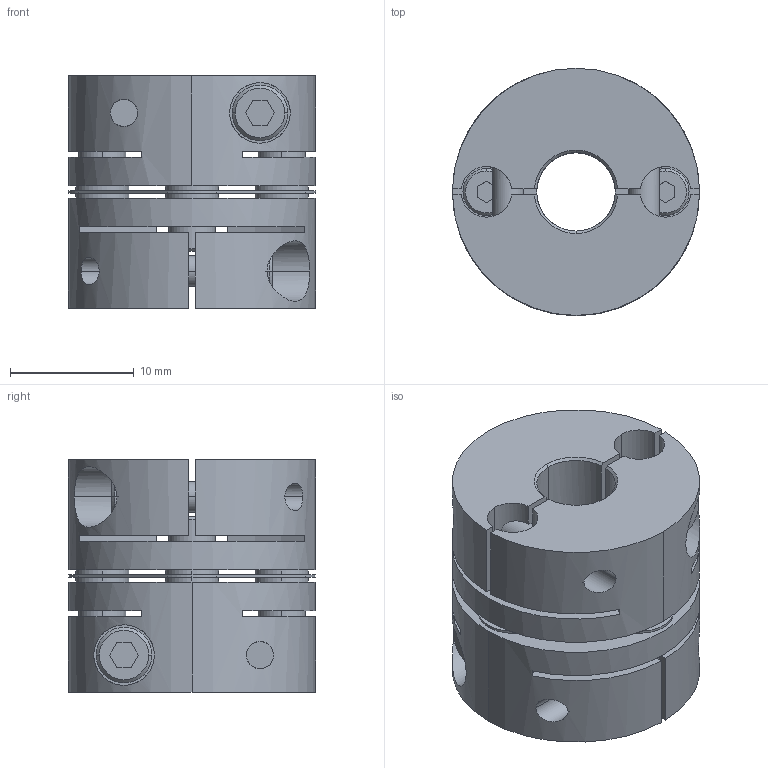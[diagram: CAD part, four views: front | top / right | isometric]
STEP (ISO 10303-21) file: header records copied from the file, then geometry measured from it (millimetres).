
FILE_DESCRIPTION((''),'2;1');
FILE_NAME('LAS-20C-6.35×6.35.stp','2014-02-05T09:32:28',(''),(''),'AutoCAD STEP 2000i','AutoCAD 2000i',', , ');
FILE_SCHEMA(('CONFIG_CONTROL_DESIGN'));
Length unit declared in the file: millimetre
Products named in the file (5): LAS-20C-4×4; 忣兜1; LA-2002-D04-1; LA-2002-D04; LAS20-ITA
Assembly tree (4 placements, depth 2):
  LAS-20C-4×4
    忣兜1
    LA-2002-D04-1
    LA-2002-D04
    LAS20-ITA
Bounding box: 20 x 20 x 18.8 mm (x, y, z)
Volume: 4455 mm3; surface area: 4520.8 mm2
Topology: 1 solids, 1 shells, 236 faces, 624 edges, 408 vertices
Faces by surface type: plane 112, cylinder 96, cone 28
Entity records: 8203 total; most frequent: CARTESIAN_POINT 2009, DIRECTION 1302, ORIENTED_EDGE 1248, EDGE_CURVE 624, AXIS2_PLACEMENT_3D 477, VERTEX_POINT 408, VECTOR 348, LINE 348
